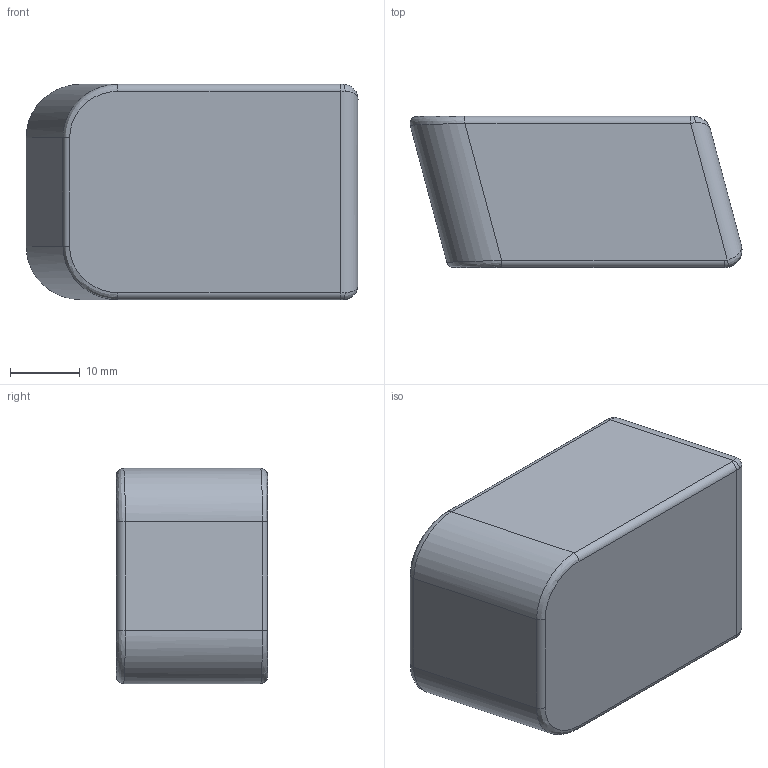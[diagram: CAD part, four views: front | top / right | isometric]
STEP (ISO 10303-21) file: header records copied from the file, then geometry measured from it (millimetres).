
FILE_DESCRIPTION(/* description */ (''),/* implementation_level */ '2;1');
FILE_NAME(/* name */ 'D:/Gunny McGunsmith/Glock 17 and 19/Baseplate and Extension/Menendez Mag Extended Baseplate v2.step',/* time_stamp */ '2019-08-25T22:27:39-04:00',/* author */ (''),/* organization */ (''),/* preprocessor_version */ 'ST-DEVELOPER v18',/* originating_system */ 'Autodesk Translation Framework v8.6.0.1094',/* authorisation */ '');
FILE_SCHEMA (('AUTOMOTIVE_DESIGN { 1 0 10303 214 3 1 1 }'));
Length unit declared in the file: millimetre
Products named in the file (1): Menendez Mag Extended Baseplate
Bounding box: 47.48 x 21.6 x 30.78 mm (x, y, z)
Volume: 13524.1 mm3; surface area: 7646.8 mm2
Topology: 1 solids, 1 shells, 71 faces, 184 edges, 112 vertices
Faces by surface type: plane 33, cylinder 24, bspline 10, torus 4
Entity records: 2440 total; most frequent: CARTESIAN_POINT 658, DIRECTION 366, ORIENTED_EDGE 360, EDGE_CURVE 180, AXIS2_PLACEMENT_3D 126, LINE 114, VECTOR 114, VERTEX_POINT 112
